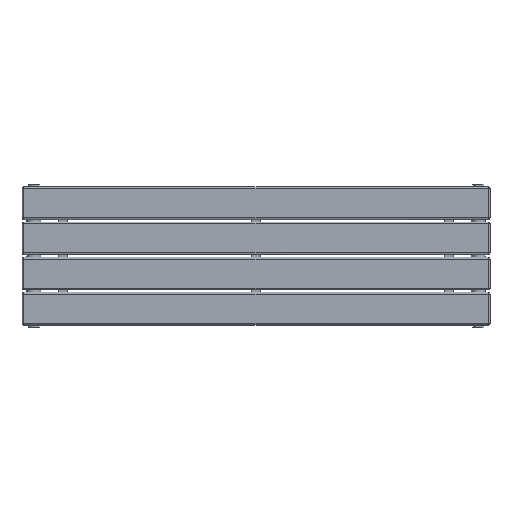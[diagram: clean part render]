
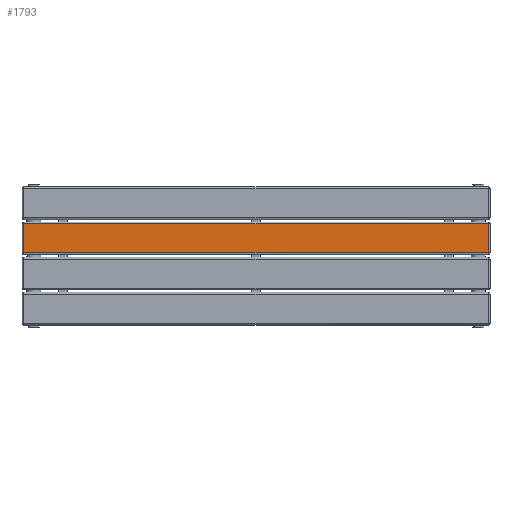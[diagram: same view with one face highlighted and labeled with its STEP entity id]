
A CAD part, top view. The second image highlights one B-rep face of the part: STEP entity #1793.
In plain terms, the highlighted planar face has unit normal (0, 0, 1) as drawn and (0, -1, 0) by its records, which use the part's own axes.
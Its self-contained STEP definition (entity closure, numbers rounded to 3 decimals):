
#210=LINE('',#3098,#335);
#213=LINE('',#3111,#338);
#216=LINE('',#3119,#341);
#217=LINE('',#3125,#342);
#335=VECTOR('',#2255,10.);
#338=VECTOR('',#2272,10.);
#341=VECTOR('',#2281,10.);
#342=VECTOR('',#2292,10.);
#471=PLANE('',#1989);
#662=FACE_OUTER_BOUND('',#791,.T.);
#791=EDGE_LOOP('',(#1380,#1381,#1382,#1383));
#927=VERTEX_POINT('',#3095);
#928=VERTEX_POINT('',#3097);
#931=VERTEX_POINT('',#3109);
#933=VERTEX_POINT('',#3117);
#1086=EDGE_CURVE('',#927,#928,#210,.T.);
#1093=EDGE_CURVE('',#927,#931,#213,.T.);
#1097=EDGE_CURVE('',#933,#931,#216,.T.);
#1100=EDGE_CURVE('',#928,#933,#217,.T.);
#1380=ORIENTED_EDGE('',*,*,#1086,.F.);
#1381=ORIENTED_EDGE('',*,*,#1093,.T.);
#1382=ORIENTED_EDGE('',*,*,#1097,.F.);
#1383=ORIENTED_EDGE('',*,*,#1100,.F.);
#1793=ADVANCED_FACE('',(#662),#471,.T.);
#1989=AXIS2_PLACEMENT_3D('',#3126,#2293,#2294);
#2255=DIRECTION('',(-1.,0.,0.));
#2272=DIRECTION('',(0.,0.,1.));
#2281=DIRECTION('',(1.,0.,0.));
#2292=DIRECTION('',(0.,0.,1.));
#2293=DIRECTION('center_axis',(0.,-1.,0.));
#2294=DIRECTION('ref_axis',(1.,0.,0.));
#3095=CARTESIAN_POINT('',(31.,-8.,-496.));
#3097=CARTESIAN_POINT('',(-31.,-8.,-496.));
#3098=CARTESIAN_POINT('',(-15.5,-8.,-496.));
#3109=CARTESIAN_POINT('',(31.,-8.,496.));
#3111=CARTESIAN_POINT('',(31.,-8.,0.));
#3117=CARTESIAN_POINT('',(-31.,-8.,496.));
#3119=CARTESIAN_POINT('',(-15.5,-8.,496.));
#3125=CARTESIAN_POINT('',(-31.,-8.,0.));
#3126=CARTESIAN_POINT('Origin',(-31.,-8.,0.));
